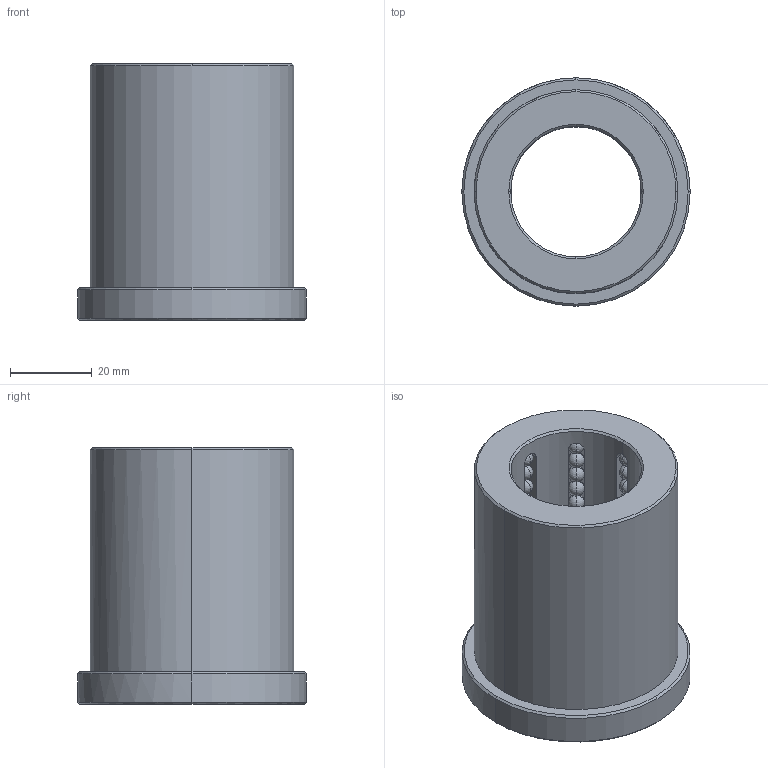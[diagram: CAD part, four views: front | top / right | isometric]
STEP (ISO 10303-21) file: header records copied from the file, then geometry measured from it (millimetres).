
FILE_DESCRIPTION(('CATIA V5 STEP Exchange'),'2;1');
FILE_NAME('C:\Users\Raffaele\Desktop\3D BOLEX\3D FILES CF BOLEX\1-BUSH REF 801\B8013263.stp','2019-06-19T13:45:51+00:00',('none'),('none'),'CATIA Version 5 Release 20 GA (IN-10)','CATIA V5 STEP AP203','none');
FILE_SCHEMA(('CONFIG_CONTROL_DESIGN'));
Length unit declared in the file: millimetre
Products named in the file (1): B8013263
Bounding box: 56 x 56 x 63 mm (x, y, z)
Volume: 73652.5 mm3; surface area: 28365.9 mm2
Topology: 105 solids, 105 shells, 485 faces, 1418 edges, 318 vertices
Faces by surface type: sphere 416, plane 27, cylinder 22, cone 20
Entity records: 9308 total; most frequent: CARTESIAN_POINT 1884, DIRECTION 1516, ORIENTED_EDGE 1172, AXIS2_PLACEMENT_3D 940, EDGE_CURVE 586, EDGE_LOOP 494, ADVANCED_FACE 485, FACE_OUTER_BOUND 485
